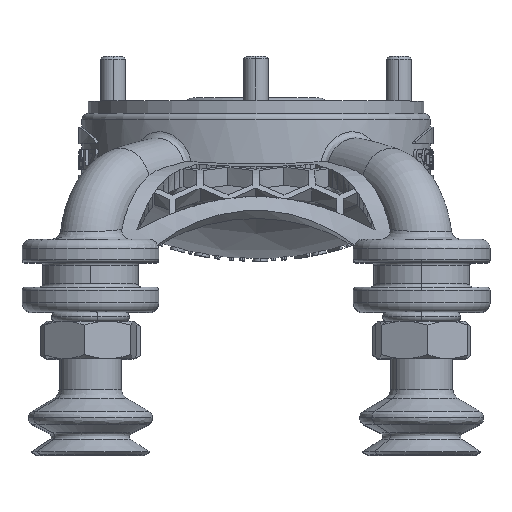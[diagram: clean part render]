
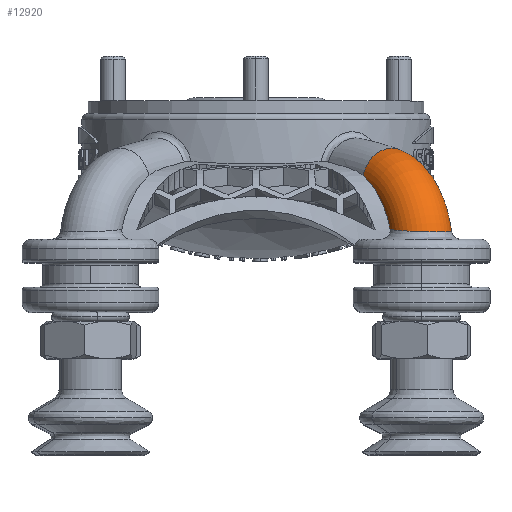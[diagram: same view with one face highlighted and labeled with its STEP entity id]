
A CAD part, top view. The second image highlights one B-rep face of the part: STEP entity #12920.
In plain terms, the highlighted toroidal (fillet/blend) face has major radius 12 mm and minor radius 5 mm.
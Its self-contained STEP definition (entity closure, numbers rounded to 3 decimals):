
#1816 = CARTESIAN_POINT ( 'NONE',  ( 27.535, -8.727, 33.965 ) ) ;
#3791 = CIRCLE ( 'NONE', #47650, 5. ) ;
#3863 = CARTESIAN_POINT ( 'NONE',  ( 17.71, -2.154, 35.595 ) ) ;
#4931 = CARTESIAN_POINT ( 'NONE',  ( 26.972, -10.762, 44.711 ) ) ;
#6112 = CARTESIAN_POINT ( 'NONE',  ( 31.293, -10.63, 38.523 ) ) ;
#7708 = CARTESIAN_POINT ( 'NONE',  ( 25.487, -3.904, 29.671 ) ) ;
#8861 = CARTESIAN_POINT ( 'NONE',  ( 21.311, -2.237, 31.987 ) ) ;
#10804 = CARTESIAN_POINT ( 'NONE',  ( 22.259, -10.509, 42.433 ) ) ;
#11184 = CARTESIAN_POINT ( 'NONE',  ( 22.387, -10.526, 42.61 ) ) ;
#11573 = CARTESIAN_POINT ( 'NONE',  ( 26.317, -10.748, 44.726 ) ) ;
#11976 = CARTESIAN_POINT ( 'NONE',  ( 31.262, -10.737, 41.132 ) ) ;
#12920 = ADVANCED_FACE ( 'NONE', ( #45397 ), #75271, .T. ) ;
#13133 = CARTESIAN_POINT ( 'NONE',  ( 29.305, -10.327, 35.442 ) ) ;
#13904 = VERTEX_POINT ( 'NONE', #41159 ) ;
#17092 = CARTESIAN_POINT ( 'NONE',  ( 31.411, -10.718, 40.492 ) ) ;
#18648 = CARTESIAN_POINT ( 'NONE',  ( 30.224, -10.457, 36.38 ) ) ;
#19092 = CARTESIAN_POINT ( 'NONE',  ( 26.97, -6.875, 32.779 ) ) ;
#19862 = CARTESIAN_POINT ( 'NONE',  ( 26.633, -6.048, 32.064 ) ) ;
#20367 = CARTESIAN_POINT ( 'NONE',  ( 21.563, -10.369, 41.078 ) ) ;
#21532 = CARTESIAN_POINT ( 'NONE',  ( 20.585, -6.776, 39.757 ) ) ;
#21914 = CARTESIAN_POINT ( 'NONE',  ( 21.149, -8.52, 40.522 ) ) ;
#22601 = CARTESIAN_POINT ( 'NONE',  ( 26.754, -10.757, 44.726 ) ) ;
#23380 = CARTESIAN_POINT ( 'NONE',  ( 21.714, -10.415, 41.491 ) ) ;
#24152 = CARTESIAN_POINT ( 'NONE',  ( 29.771, -10.783, 43.534 ) ) ;
#25108 = ORIENTED_EDGE ( 'NONE', *, *, #28425, .T. ) ;
#27398 = CARTESIAN_POINT ( 'NONE',  ( 21.479, -9.896, 40.966 ) ) ;
#27769 = CARTESIAN_POINT ( 'NONE',  ( 18.176, -2.657, 36.304 ) ) ;
#28425 = EDGE_CURVE ( 'NONE', #45219, #13904, #39083, .T. ) ;
#28432 = DIRECTION ( 'NONE',  ( 0.832, 0., -0.554 ) ) ;
#28844 = CARTESIAN_POINT ( 'NONE',  ( 27.627, -10.772, 44.608 ) ) ;
#30008 = CARTESIAN_POINT ( 'NONE',  ( 31.109, -10.591, 37.889 ) ) ;
#30793 = CARTESIAN_POINT ( 'NONE',  ( 30.085, -10.437, 36.212 ) ) ;
#32004 = CARTESIAN_POINT ( 'NONE',  ( 25.19, -3.502, 29.096 ) ) ;
#33621 = ORIENTED_EDGE ( 'NONE', *, *, #40344, .T. ) ;
#34761 = CARTESIAN_POINT ( 'NONE',  ( 24.809, -10.7, 44.439 ) ) ;
#35139 = CARTESIAN_POINT ( 'NONE',  ( 25.66, -10.73, 44.653 ) ) ;
#35539 = CARTESIAN_POINT ( 'NONE',  ( 28.262, -10.78, 44.434 ) ) ;
#35927 = CARTESIAN_POINT ( 'NONE',  ( 31.342, -10.642, 38.74 ) ) ;
#39083 = B_SPLINE_CURVE_WITH_KNOTS ( 'NONE', 3,
 ( #49671, #50049, #1816, #50435, #19092, #19862, #49294, #67328, #74362, #68096, #7708, #32004 ),
 .UNSPECIFIED., .F., .F.,
 ( 4, 2, 2, 2, 2, 4 ),
 ( 0.002, 0.005, 0.007, 0.008, 0.009, 0.011 ),
 .UNSPECIFIED. ) ;
#39446 = EDGE_CURVE ( 'NONE', #13904, #49428, #3791, .T. ) ;
#40344 = EDGE_CURVE ( 'NONE', #57089, #45219, #64261, .T. ) ;
#40643 = CARTESIAN_POINT ( 'NONE',  ( 21.563, -10.369, 41.078 ) ) ;
#41159 = CARTESIAN_POINT ( 'NONE',  ( 25.19, -3.502, 29.096 ) ) ;
#41406 = CARTESIAN_POINT ( 'NONE',  ( 26.098, -10.742, 44.712 ) ) ;
#41794 = CARTESIAN_POINT ( 'NONE',  ( 31.432, -10.674, 39.39 ) ) ;
#42183 = CARTESIAN_POINT ( 'NONE',  ( 23.636, -10.64, 43.832 ) ) ;
#44298 = CARTESIAN_POINT ( 'NONE',  ( 21.38, -9.431, 40.833 ) ) ;
#44694 = CARTESIAN_POINT ( 'NONE',  ( 20.248, -5.977, 39.294 ) ) ;
#45016 = DIRECTION ( 'NONE',  ( -0.832, 0., 0.554 ) ) ;
#45219 = VERTEX_POINT ( 'NONE', #51958 ) ;
#45397 = FACE_OUTER_BOUND ( 'NONE', #50481, .T. ) ;
#45464 = CARTESIAN_POINT ( 'NONE',  ( 19.678, -4.871, 38.493 ) ) ;
#46920 = CARTESIAN_POINT ( 'NONE',  ( 27.408, -10.769, 44.653 ) ) ;
#47301 = CARTESIAN_POINT ( 'NONE',  ( 22.815, -10.574, 43.114 ) ) ;
#47650 = AXIS2_PLACEMENT_3D ( 'NONE', #8861, #63761, #28432 ) ;
#48082 = CARTESIAN_POINT ( 'NONE',  ( 31.199, -10.743, 41.341 ) ) ;
#48847 = CARTESIAN_POINT ( 'NONE',  ( 30.607, -10.512, 36.917 ) ) ;
#49294 = CARTESIAN_POINT ( 'NONE',  ( 26.516, -5.782, 31.816 ) ) ;
#49428 = VERTEX_POINT ( 'NONE', #67930 ) ;
#49618 = CARTESIAN_POINT ( 'NONE',  ( 30.485, -10.494, 36.731 ) ) ;
#49671 = CARTESIAN_POINT ( 'NONE',  ( 27.816, -10.11, 34.546 ) ) ;
#49991 = CARTESIAN_POINT ( 'NONE',  ( 27.816, -10.11, 34.546 ) ) ;
#50049 = CARTESIAN_POINT ( 'NONE',  ( 27.692, -9.408, 34.291 ) ) ;
#50225 = ORIENTED_EDGE ( 'NONE', *, *, #74487, .T. ) ;
#50435 = CARTESIAN_POINT ( 'NONE',  ( 27.174, -7.464, 33.209 ) ) ;
#50481 = EDGE_LOOP ( 'NONE', ( #77017, #50225, #33621, #25108 ) ) ;
#50968 = CARTESIAN_POINT ( 'NONE',  ( 21.017, -8.07, 40.344 ) ) ;
#51719 = CARTESIAN_POINT ( 'NONE',  ( 19.056, -3.847, 37.603 ) ) ;
#51958 = CARTESIAN_POINT ( 'NONE',  ( 27.816, -10.11, 34.546 ) ) ;
#52399 = CARTESIAN_POINT ( 'NONE',  ( 23.288, -10.616, 43.569 ) ) ;
#52788 = CARTESIAN_POINT ( 'NONE',  ( 30.64, -10.77, 42.537 ) ) ;
#53171 = CARTESIAN_POINT ( 'NONE',  ( 22.666, -10.559, 42.951 ) ) ;
#54736 = CARTESIAN_POINT ( 'NONE',  ( 28.593, -10.224, 34.94 ) ) ;
#55883 = CARTESIAN_POINT ( 'NONE',  ( 30.936, -10.563, 37.488 ) ) ;
#57089 = VERTEX_POINT ( 'NONE', #74238 ) ;
#57617 = CARTESIAN_POINT ( 'NONE',  ( 17.227, -1.739, 34.828 ) ) ;
#58676 = CARTESIAN_POINT ( 'NONE',  ( 25.443, -10.723, 44.61 ) ) ;
#59068 = CARTESIAN_POINT ( 'NONE',  ( 30.384, -10.776, 42.891 ) ) ;
#59464 = CARTESIAN_POINT ( 'NONE',  ( 29.428, -10.784, 43.808 ) ) ;
#59854 = CARTESIAN_POINT ( 'NONE',  ( 31.411, -10.664, 39.173 ) ) ;
#61777 = CARTESIAN_POINT ( 'NONE',  ( 28.214, -10.169, 34.725 ) ) ;
#63062 = CARTESIAN_POINT ( 'NONE',  ( 19.996, -14., 30.013 ) ) ;
#63761 = DIRECTION ( 'NONE',  ( 0.544, -0.198, 0.816 ) ) ;
#63871 = CARTESIAN_POINT ( 'NONE',  ( 18.84, -3.534, 37.288 ) ) ;
#64261 = B_SPLINE_CURVE_WITH_KNOTS ( 'NONE', 3,
 ( #40643, #23380, #64566, #10804, #11184, #53171, #47301, #52399, #42183, #71227, #34761, #58676, #35139, #41406, #11573, #22601, #4931, #46920, #28844, #35539, #70841, #59464, #24152, #59068, #52788, #71608, #65722, #48082, #11976, #17092, #76703, #41794, #59854, #35927, #6112, #30008, #55883, #48847, #49618, #18648, #30793, #73155, #13133, #54736, #61777, #49991 ),
 .UNSPECIFIED., .F., .F.,
 ( 4, 2, 2, 2, 2, 2, 2, 2, 2, 2, 2, 2, 2, 2, 2, 2, 2, 2, 2, 2, 2, 2, 4 ),
 ( 0.007, 0.008, 0.009, 0.009, 0.011, 0.012, 0.013, 0.013, 0.014, 0.015, 0.016, 0.017, 0.019, 0.019, 0.02, 0.021, 0.022, 0.022, 0.024, 0.024, 0.025, 0.026, 0.028 ),
 .UNSPECIFIED. ) ;
#64566 = CARTESIAN_POINT ( 'NONE',  ( 21.907, -10.455, 41.883 ) ) ;
#65722 = CARTESIAN_POINT ( 'NONE',  ( 31.044, -10.754, 41.753 ) ) ;
#67328 = CARTESIAN_POINT ( 'NONE',  ( 26.274, -5.275, 31.305 ) ) ;
#67930 = CARTESIAN_POINT ( 'NONE',  ( 17.227, -1.739, 34.828 ) ) ;
#68096 = CARTESIAN_POINT ( 'NONE',  ( 25.761, -4.333, 30.234 ) ) ;
#69321 = DIRECTION ( 'NONE',  ( 0.554, 0., 0.832 ) ) ;
#70230 = AXIS2_PLACEMENT_3D ( 'NONE', #63062, #45016, #69321 ) ;
#70841 = CARTESIAN_POINT ( 'NONE',  ( 28.666, -10.783, 44.262 ) ) ;
#71227 = CARTESIAN_POINT ( 'NONE',  ( 24.403, -10.683, 44.271 ) ) ;
#71608 = CARTESIAN_POINT ( 'NONE',  ( 30.952, -10.758, 41.956 ) ) ;
#73155 = CARTESIAN_POINT ( 'NONE',  ( 29.64, -10.374, 35.733 ) ) ;
#74238 = CARTESIAN_POINT ( 'NONE',  ( 21.563, -10.369, 41.078 ) ) ;
#74362 = CARTESIAN_POINT ( 'NONE',  ( 26.149, -5.033, 31.042 ) ) ;
#74487 = EDGE_CURVE ( 'NONE', #49428, #57089, #75218, .T. ) ;
#75218 = B_SPLINE_CURVE_WITH_KNOTS ( 'NONE', 3,
 ( #57617, #3863, #27769, #63871, #51719, #75640, #45464, #44694, #21532, #50968, #21914, #44298, #27398, #20367 ),
 .UNSPECIFIED., .F., .F.,
 ( 4, 2, 2, 2, 2, 2, 4 ),
 ( 0., 0.003, 0.004, 0.006, 0.009, 0.01, 0.012 ),
 .UNSPECIFIED. ) ;
#75271 = TOROIDAL_SURFACE ( 'NONE', #70230, 12., 5. ) ;
#75640 = CARTESIAN_POINT ( 'NONE',  ( 19.476, -4.517, 38.206 ) ) ;
#76703 = CARTESIAN_POINT ( 'NONE',  ( 31.453, -10.702, 40.046 ) ) ;
#77017 = ORIENTED_EDGE ( 'NONE', *, *, #39446, .T. ) ;
